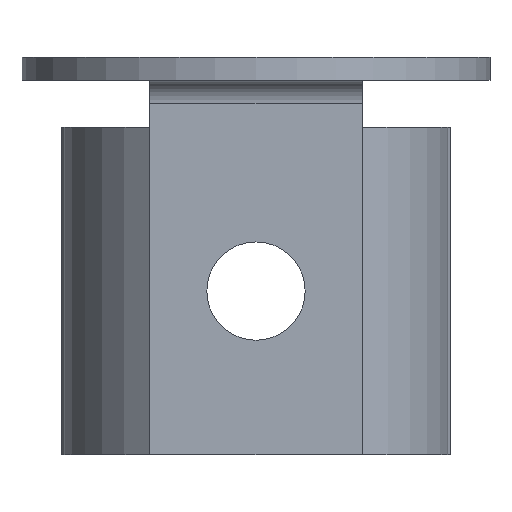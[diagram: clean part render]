
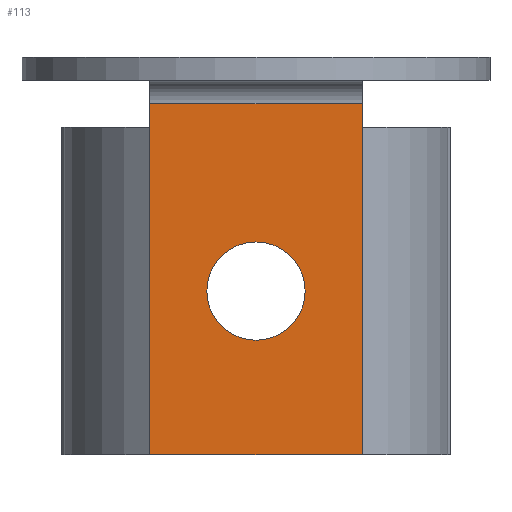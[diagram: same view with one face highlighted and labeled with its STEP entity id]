
A CAD part, front view. The second image highlights one B-rep face of the part: STEP entity #113.
In plain terms, the highlighted planar face has unit normal (0, -1, 0).
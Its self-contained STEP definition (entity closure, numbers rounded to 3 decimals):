
#67=FACE_BOUND('',#204,.T.);
#68=FACE_BOUND('',#205,.T.);
#84=PLANE('',#771);
#113=ADVANCED_FACE('',(#67,#68),#84,.T.);
#204=EDGE_LOOP('',(#431));
#205=EDGE_LOOP('',(#432,#433,#434,#435));
#253=LINE('',#1076,#317);
#258=LINE('',#1090,#322);
#259=LINE('',#1094,#323);
#261=LINE('',#1099,#325);
#317=VECTOR('',#872,1.);
#322=VECTOR('',#883,1.);
#323=VECTOR('',#888,1.);
#325=VECTOR('',#894,1.);
#431=ORIENTED_EDGE('',*,*,#646,.T.);
#432=ORIENTED_EDGE('',*,*,#642,.F.);
#433=ORIENTED_EDGE('',*,*,#645,.F.);
#434=ORIENTED_EDGE('',*,*,#633,.T.);
#435=ORIENTED_EDGE('',*,*,#640,.T.);
#563=VERTEX_POINT('',#1077);
#564=VERTEX_POINT('',#1078);
#568=VERTEX_POINT('',#1089);
#569=VERTEX_POINT('',#1093);
#571=VERTEX_POINT('',#1102);
#633=EDGE_CURVE('',#563,#564,#253,.T.);
#640=EDGE_CURVE('',#564,#568,#258,.T.);
#642=EDGE_CURVE('',#569,#568,#259,.T.);
#645=EDGE_CURVE('',#563,#569,#261,.T.);
#646=EDGE_CURVE('',#571,#571,#707,.T.);
#707=CIRCLE('',#770,1.05);
#770=AXIS2_PLACEMENT_3D('',#1101,#897,#898);
#771=AXIS2_PLACEMENT_3D('',#1103,#899,#900);
#872=DIRECTION('',(0.,0.,-1.));
#883=DIRECTION('',(1.,0.,0.));
#888=DIRECTION('',(0.,0.,-1.));
#894=DIRECTION('',(1.,0.,0.));
#897=DIRECTION('',(0.,1.,0.));
#898=DIRECTION('',(0.,0.,-1.));
#899=DIRECTION('',(0.,-1.,0.));
#900=DIRECTION('',(0.,0.,-1.));
#1076=CARTESIAN_POINT('',(-2.268,9.,-0.5));
#1077=CARTESIAN_POINT('',(-2.268,9.,-0.5));
#1078=CARTESIAN_POINT('',(-2.268,9.,-8.));
#1089=CARTESIAN_POINT('',(2.268,9.,-8.));
#1090=CARTESIAN_POINT('',(-2.268,9.,-8.));
#1093=CARTESIAN_POINT('',(2.268,9.,-0.5));
#1094=CARTESIAN_POINT('',(2.268,9.,-0.5));
#1099=CARTESIAN_POINT('',(-2.268,9.,-0.5));
#1101=CARTESIAN_POINT('',(0.,9.,-4.5));
#1102=CARTESIAN_POINT('',(0.,9.,-5.55));
#1103=CARTESIAN_POINT('',(-2.268,9.,-0.5));
